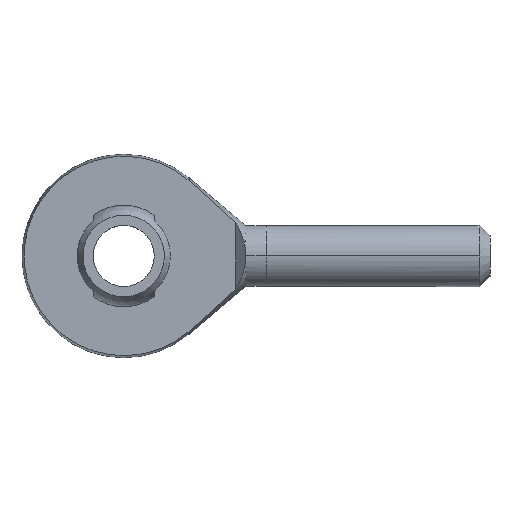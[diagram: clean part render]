
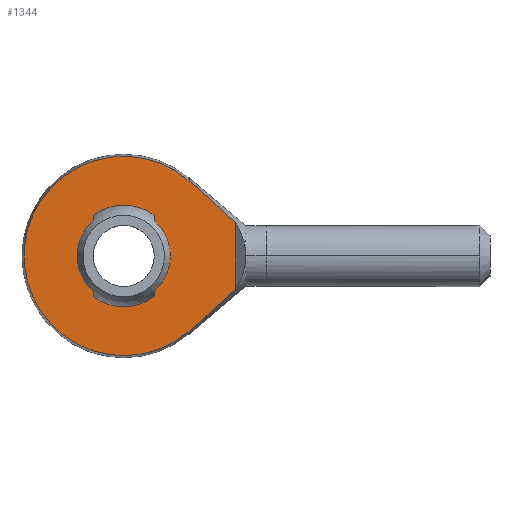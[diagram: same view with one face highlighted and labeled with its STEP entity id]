
A CAD part, top view. The second image highlights one B-rep face of the part: STEP entity #1344.
In plain terms, the highlighted planar face has unit normal (0, 0, 1).
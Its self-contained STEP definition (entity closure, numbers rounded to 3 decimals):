
#25 = VERTEX_POINT ( 'NONE', #333 ) ;
#28 = VERTEX_POINT ( 'NONE', #323 ) ;
#29 = EDGE_CURVE ( 'NONE', #25, #28, #322, .T. ) ;
#95 = EDGE_CURVE ( 'NONE', #135, #98, #432, .T. ) ;
#98 = VERTEX_POINT ( 'NONE', #423 ) ;
#121 = EDGE_CURVE ( 'NONE', #278, #25, #444, .T. ) ;
#135 = VERTEX_POINT ( 'NONE', #530 ) ;
#143 = EDGE_CURVE ( 'NONE', #197, #98, #515, .T. ) ;
#148 = VERTEX_POINT ( 'NONE', #561 ) ;
#150 = EDGE_CURVE ( 'NONE', #148, #151, #560, .T. ) ;
#151 = VERTEX_POINT ( 'NONE', #556 ) ;
#155 = EDGE_CURVE ( 'NONE', #158, #206, #549, .T. ) ;
#158 = VERTEX_POINT ( 'NONE', #540 ) ;
#197 = VERTEX_POINT ( 'NONE', #607 ) ;
#206 = VERTEX_POINT ( 'NONE', #661 ) ;
#273 = EDGE_CURVE ( 'NONE', #28, #275, #780, .T. ) ;
#275 = VERTEX_POINT ( 'NONE', #824 ) ;
#278 = VERTEX_POINT ( 'NONE', #779 ) ;
#318 = DIRECTION ( 'NONE',  ( -1., 0., 0. ) ) ;
#319 = DIRECTION ( 'NONE',  ( 0., 0., 1. ) ) ;
#320 = CARTESIAN_POINT ( 'NONE',  ( 0., 0., 2. ) ) ;
#321 = AXIS2_PLACEMENT_3D ( 'NONE', #320, #319, #318 ) ;
#322 = CIRCLE ( 'NONE', #321, 9.798 ) ;
#323 = CARTESIAN_POINT ( 'NONE',  ( 6.42, -7.402, 2. ) ) ;
#333 = CARTESIAN_POINT ( 'NONE',  ( 6.42, 7.402, 2. ) ) ;
#423 = CARTESIAN_POINT ( 'NONE',  ( -3., 3.464, 2. ) ) ;
#424 = DIRECTION ( 'NONE',  ( -1., 0., 0. ) ) ;
#425 = DIRECTION ( 'NONE',  ( 0., 0., -1. ) ) ;
#426 = CARTESIAN_POINT ( 'NONE',  ( 0., 0., 2. ) ) ;
#427 = AXIS2_PLACEMENT_3D ( 'NONE', #426, #425, #424 ) ;
#432 = CIRCLE ( 'NONE', #427, 4.583 ) ;
#438 = CARTESIAN_POINT ( 'NONE',  ( 7.97, 6.051, 2. ) ) ;
#439 = CARTESIAN_POINT ( 'NONE',  ( 9.504, 4.681, 2. ) ) ;
#440 = CARTESIAN_POINT ( 'NONE',  ( 10.266, 3.989, 2. ) ) ;
#441 = CARTESIAN_POINT ( 'NONE',  ( 11., 3.269, 2. ) ) ;
#444 = B_SPLINE_CURVE_WITH_KNOTS ( 'NONE', 3,
 ( #441, #440, #439, #438, #498, #497 ),
 .UNSPECIFIED., .F., .F.,
 ( 4, 2, 4 ),
 ( 0.041, 0.044, 0.047 ),
 .UNSPECIFIED. ) ;
#497 = CARTESIAN_POINT ( 'NONE',  ( 6.42, 7.402, 2. ) ) ;
#498 = CARTESIAN_POINT ( 'NONE',  ( 7.196, 6.728, 2. ) ) ;
#512 = DIRECTION ( 'NONE',  ( 0., -1., 0. ) ) ;
#513 = VECTOR ( 'NONE', #512, 1000. ) ;
#514 = CARTESIAN_POINT ( 'NONE',  ( -3., 4., 2. ) ) ;
#515 = LINE ( 'NONE', #514, #513 ) ;
#530 = CARTESIAN_POINT ( 'NONE',  ( -3., -3.464, 2. ) ) ;
#540 = CARTESIAN_POINT ( 'NONE',  ( 3., 3.464, 2. ) ) ;
#546 = DIRECTION ( 'NONE',  ( 0., 1., 0. ) ) ;
#547 = VECTOR ( 'NONE', #546, 1000. ) ;
#548 = CARTESIAN_POINT ( 'NONE',  ( 3., 4., 2. ) ) ;
#549 = LINE ( 'NONE', #548, #547 ) ;
#556 = CARTESIAN_POINT ( 'NONE',  ( 3., -3.464, 2. ) ) ;
#557 = DIRECTION ( 'NONE',  ( 0., 1., 0. ) ) ;
#558 = VECTOR ( 'NONE', #557, 1000. ) ;
#559 = CARTESIAN_POINT ( 'NONE',  ( 3., 4., 2. ) ) ;
#560 = LINE ( 'NONE', #559, #558 ) ;
#561 = CARTESIAN_POINT ( 'NONE',  ( 3., -4., 2. ) ) ;
#607 = CARTESIAN_POINT ( 'NONE',  ( -3., 4., 2. ) ) ;
#661 = CARTESIAN_POINT ( 'NONE',  ( 3., 4., 2. ) ) ;
#773 = CARTESIAN_POINT ( 'NONE',  ( 11., -3.269, 2. ) ) ;
#774 = CARTESIAN_POINT ( 'NONE',  ( 10.265, -3.99, 2. ) ) ;
#775 = CARTESIAN_POINT ( 'NONE',  ( 9.504, -4.681, 2. ) ) ;
#776 = CARTESIAN_POINT ( 'NONE',  ( 7.97, -6.051, 2. ) ) ;
#777 = CARTESIAN_POINT ( 'NONE',  ( 7.196, -6.728, 2. ) ) ;
#778 = CARTESIAN_POINT ( 'NONE',  ( 6.42, -7.402, 2. ) ) ;
#779 = CARTESIAN_POINT ( 'NONE',  ( 11., 3.269, 2. ) ) ;
#780 = B_SPLINE_CURVE_WITH_KNOTS ( 'NONE', 3,
 ( #778, #777, #776, #775, #774, #773 ),
 .UNSPECIFIED., .F., .F.,
 ( 4, 2, 4 ),
 ( 0.027, 0.03, 0.033 ),
 .UNSPECIFIED. ) ;
#824 = CARTESIAN_POINT ( 'NONE',  ( 11., -3.269, 2. ) ) ;
#887 = DIRECTION ( 'NONE',  ( -1., 0., 0. ) ) ;
#888 = DIRECTION ( 'NONE',  ( 0., 0., -1. ) ) ;
#889 = AXIS2_PLACEMENT_3D ( 'NONE', #895, #888, #887 ) ;
#890 = CIRCLE ( 'NONE', #889, 4.583 ) ;
#892 = DIRECTION ( 'NONE',  ( -1., 0., 0. ) ) ;
#893 = DIRECTION ( 'NONE',  ( 0., 0., -1. ) ) ;
#894 = CARTESIAN_POINT ( 'NONE',  ( -10., -10., 2. ) ) ;
#895 = CARTESIAN_POINT ( 'NONE',  ( 0., 0., 2. ) ) ;
#896 = AXIS2_PLACEMENT_3D ( 'NONE', #894, #893, #892 ) ;
#897 = PLANE ( 'NONE',  #896 ) ;
#898 = FACE_OUTER_BOUND ( 'NONE', #1355, .T. ) ;
#899 = FACE_BOUND ( 'NONE', #1323, .T. ) ;
#909 = DIRECTION ( 'NONE',  ( 0., -1., 0. ) ) ;
#910 = VECTOR ( 'NONE', #909, 1000. ) ;
#911 = CARTESIAN_POINT ( 'NONE',  ( -3., 4., 2. ) ) ;
#912 = LINE ( 'NONE', #911, #910 ) ;
#913 = DIRECTION ( 'NONE',  ( 1., 0., 0. ) ) ;
#914 = DIRECTION ( 'NONE',  ( 0., 0., 1. ) ) ;
#915 = CARTESIAN_POINT ( 'NONE',  ( 0., 0., 2. ) ) ;
#916 = AXIS2_PLACEMENT_3D ( 'NONE', #915, #914, #913 ) ;
#917 = CIRCLE ( 'NONE', #916, 5. ) ;
#918 = CARTESIAN_POINT ( 'NONE',  ( -3., -4., 2. ) ) ;
#937 = DIRECTION ( 'NONE',  ( 1., 0., 0. ) ) ;
#938 = DIRECTION ( 'NONE',  ( 0., 0., 1. ) ) ;
#939 = CARTESIAN_POINT ( 'NONE',  ( 0., 0., 2. ) ) ;
#940 = AXIS2_PLACEMENT_3D ( 'NONE', #939, #938, #937 ) ;
#941 = CIRCLE ( 'NONE', #940, 5. ) ;
#942 = DIRECTION ( 'NONE',  ( 0., 1., 0. ) ) ;
#943 = VECTOR ( 'NONE', #942, 1000. ) ;
#944 = CARTESIAN_POINT ( 'NONE',  ( 11., -10., 2. ) ) ;
#945 = LINE ( 'NONE', #944, #943 ) ;
#1323 = EDGE_LOOP ( 'NONE', ( #1349, #1342, #1338, #1340, #1335, #1331, #1358, #1356 ) ) ;
#1331 = ORIENTED_EDGE ( 'NONE', *, *, #95, .T. ) ;
#1333 = VERTEX_POINT ( 'NONE', #918 ) ;
#1334 = EDGE_CURVE ( 'NONE', #1333, #148, #917, .T. ) ;
#1335 = ORIENTED_EDGE ( 'NONE', *, *, #1336, .F. ) ;
#1336 = EDGE_CURVE ( 'NONE', #135, #1333, #912, .T. ) ;
#1338 = ORIENTED_EDGE ( 'NONE', *, *, #150, .F. ) ;
#1340 = ORIENTED_EDGE ( 'NONE', *, *, #1334, .F. ) ;
#1342 = ORIENTED_EDGE ( 'NONE', *, *, #1346, .T. ) ;
#1344 = ADVANCED_FACE ( 'NONE', ( #899, #898 ), #897, .F. ) ;
#1346 = EDGE_CURVE ( 'NONE', #158, #151, #890, .T. ) ;
#1349 = ORIENTED_EDGE ( 'NONE', *, *, #155, .F. ) ;
#1350 = ORIENTED_EDGE ( 'NONE', *, *, #1353, .T. ) ;
#1351 = ORIENTED_EDGE ( 'NONE', *, *, #29, .T. ) ;
#1352 = ORIENTED_EDGE ( 'NONE', *, *, #121, .T. ) ;
#1353 = EDGE_CURVE ( 'NONE', #275, #278, #945, .T. ) ;
#1354 = ORIENTED_EDGE ( 'NONE', *, *, #273, .T. ) ;
#1355 = EDGE_LOOP ( 'NONE', ( #1354, #1350, #1352, #1351 ) ) ;
#1356 = ORIENTED_EDGE ( 'NONE', *, *, #1357, .F. ) ;
#1357 = EDGE_CURVE ( 'NONE', #206, #197, #941, .T. ) ;
#1358 = ORIENTED_EDGE ( 'NONE', *, *, #143, .F. ) ;
